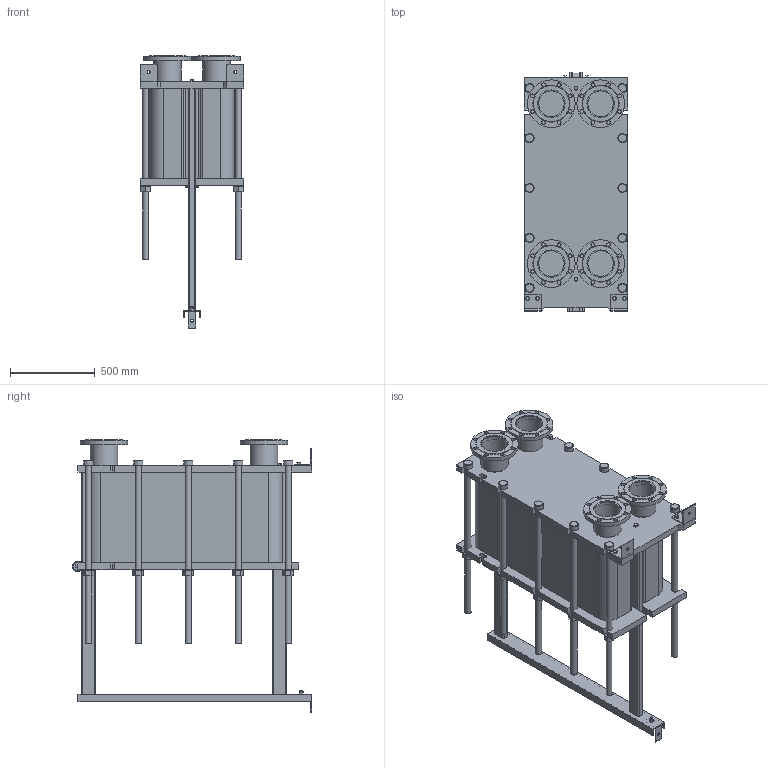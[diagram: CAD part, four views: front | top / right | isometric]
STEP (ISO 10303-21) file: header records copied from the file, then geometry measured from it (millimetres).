
FILE_DESCRIPTION(/* description */ (''),/* implementation_level */ '2;1');
FILE_NAME(/* name */ 'C:\Users\zhuro\Desktop\ENCO\TO\ЭН-041\ЭН-0,5-041-155-1.stp',/* time_stamp */ '2022-06-06T11:02:21+03:00',/* author */ ('zhuro'),/* organization */ (''),/* preprocessor_version */ 'ST-DEVELOPER v18.1',/* originating_system */ 'Autodesk Inventor 2022',/* authorisation */ '');
FILE_SCHEMA (('AUTOMOTIVE_DESIGN { 1 0 10303 214 3 1 1 }'));
Length unit declared in the file: millimetre
Products named in the file (1): ЭН-0,5-041-155-1
Bounding box: 610 x 1406.5 x 1602.5 mm (x, y, z)
Volume: 385101477.5 mm3; surface area: 10237216 mm2
Topology: 52 solids, 52 shells, 711 faces, 1696 edges, 1094 vertices
Faces by surface type: plane 487, cylinder 177, cone 41, torus 6
Full cylindrical faces by diameter (mm): 8 x4, 10 x2, 16 x8, 18 x3, 22 x32, 36 x24, 50 x1, 54 x10, 60 x12, 151 x4, 161 x8, 280 x4
Entity records: 22667 total; most frequent: CARTESIAN_POINT 5230, DIRECTION 3644, ORIENTED_EDGE 3392, EDGE_CURVE 1696, AXIS2_PLACEMENT_3D 1272, LINE 1100, VECTOR 1100, VERTEX_POINT 1094
